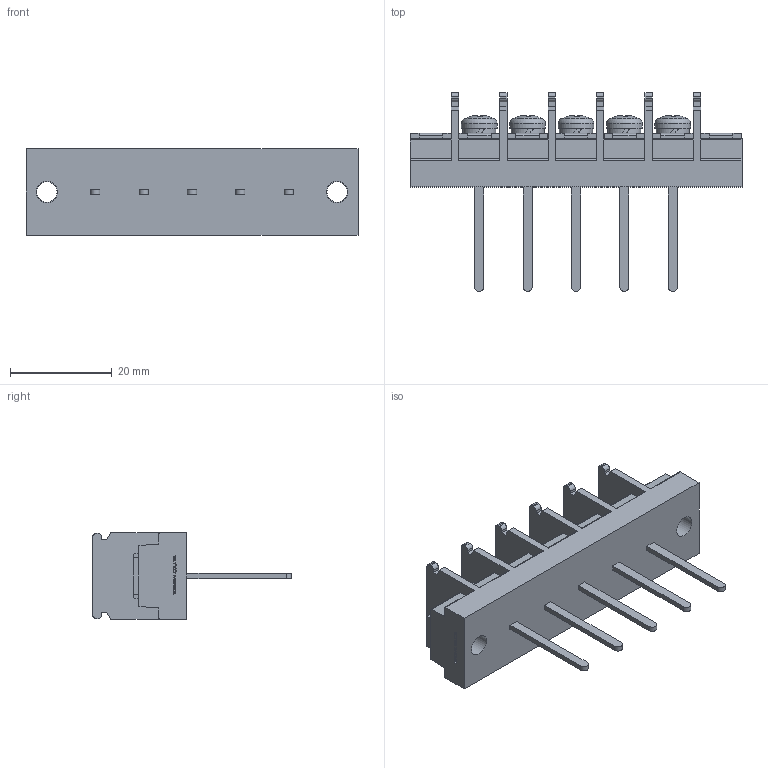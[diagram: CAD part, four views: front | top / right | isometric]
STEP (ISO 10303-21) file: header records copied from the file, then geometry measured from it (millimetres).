
FILE_DESCRIPTION(/* description */ ('Alibre Inc.'),/* implementation_level */ '2;1');
FILE_NAME(/* name */ 'export-823ABABA-0A63-40DA-939B-CA4FEAC74390',/* time_stamp */ '2021-02-02T11:20:20+09:00',/* author */ (''),/* organization */ (''),/* preprocessor_version */ 'ST-DEVELOPER v17',/* originating_system */ 'Alibre',/* authorisation */ '');
FILE_SCHEMA (('CONFIG_CONTROL_DESIGN'));
Length unit declared in the file: millimetre
Bounding box: 65.2 x 39 x 17 mm (x, y, z)
Volume: 11433.5 mm3; surface area: 7828 mm2
Topology: 1 solids, 6 shells, 845 faces, 2309 edges, 1535 vertices
Faces by surface type: plane 606, bspline 104, cylinder 95, cone 25, torus 10, sphere 5
Full cylindrical faces by diameter (mm): 4 x12, 4.2 x2, 6.5 x5, 7 x5
Entity records: 25759 total; most frequent: CARTESIAN_POINT 5669, ORIENTED_EDGE 4506, DIRECTION 3198, EDGE_CURVE 2253, VECTOR 1630, LINE 1630, VERTEX_POINT 1513, AXIS2_PLACEMENT_3D 1078
